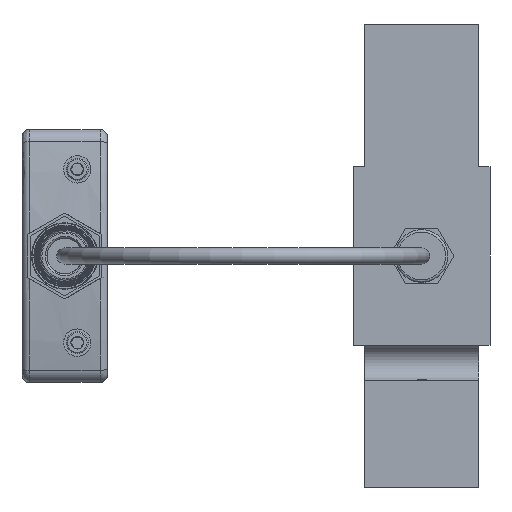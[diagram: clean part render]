
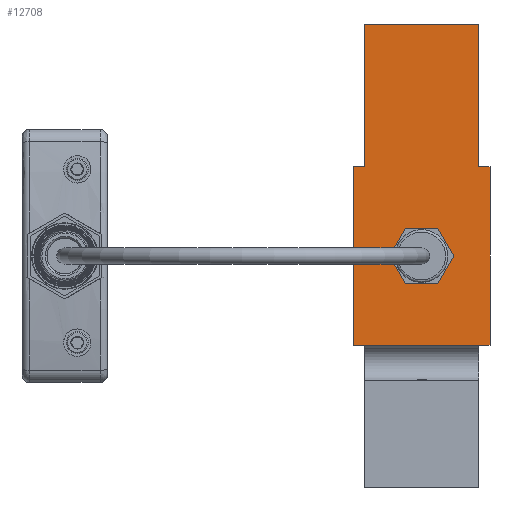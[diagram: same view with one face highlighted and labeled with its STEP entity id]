
A CAD part, left-side view. The second image highlights one B-rep face of the part: STEP entity #12708.
In plain terms, the highlighted free-form (B-spline) face has degree [1, 1] with [2, 2] control points.
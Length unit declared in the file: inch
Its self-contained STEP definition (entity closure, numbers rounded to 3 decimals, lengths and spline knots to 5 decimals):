
#12587=CARTESIAN_POINT('',(43.10371,19.18769,12.698));
#12588=CARTESIAN_POINT('',(43.10371,19.18769,15.398));
#12589=CARTESIAN_POINT('',(43.10371,18.03769,12.698));
#12590=CARTESIAN_POINT('',(43.10371,18.03769,15.398));
#12591=B_SPLINE_SURFACE_WITH_KNOTS('',1,1,((#12587,#12589),(#12588,#12590)),.UNSPECIFIED.,.F.,.F.,.U.,(2,2),(2,2),(0.0,2.7),(0.0,1.15),.UNSPECIFIED.);
#12592=CARTESIAN_POINT('',(43.10371,19.18769,12.698));
#12593=VERTEX_POINT('',#12592);
#12594=CARTESIAN_POINT('',(43.10371,18.03769,12.698));
#12595=VERTEX_POINT('',#12594);
#12596=CARTESIAN_POINT('',(43.10371,19.18769,12.698));
#12597=DIRECTION('',(0.0,-1.0,0.0));
#12598=VECTOR('',#12597,1.15);
#12599=LINE('',#12596,#12598);
#12600=EDGE_CURVE('',#12593,#12595,#12599,.T.);
#12601=ORIENTED_EDGE('',*,*,#12600,.T.);
#12602=CARTESIAN_POINT('',(43.10371,18.03769,14.198));
#12603=VERTEX_POINT('',#12602);
#12604=CARTESIAN_POINT('',(43.10371,18.03769,12.698));
#12605=DIRECTION('',(0.0,0.0,1.0));
#12606=VECTOR('',#12605,1.5);
#12607=LINE('',#12604,#12606);
#12608=EDGE_CURVE('',#12595,#12603,#12607,.T.);
#12609=ORIENTED_EDGE('',*,*,#12608,.T.);
#12610=CARTESIAN_POINT('',(43.10371,18.13269,14.198));
#12611=VERTEX_POINT('',#12610);
#12612=CARTESIAN_POINT('',(43.10371,18.03769,14.198));
#12613=DIRECTION('',(0.0,1.0,0.0));
#12614=VECTOR('',#12613,0.095);
#12615=LINE('',#12612,#12614);
#12616=EDGE_CURVE('',#12603,#12611,#12615,.T.);
#12617=ORIENTED_EDGE('',*,*,#12616,.T.);
#12618=CARTESIAN_POINT('',(43.10371,18.13269,15.398));
#12619=VERTEX_POINT('',#12618);
#12620=CARTESIAN_POINT('',(43.10371,18.13269,15.398));
#12621=DIRECTION('',(0.0,0.0,-1.0));
#12622=VECTOR('',#12621,1.2);
#12623=LINE('',#12620,#12622);
#12624=EDGE_CURVE('',#12619,#12611,#12623,.T.);
#12625=ORIENTED_EDGE('',*,*,#12624,.F.);
#12626=CARTESIAN_POINT('',(43.10371,19.09269,15.398));
#12627=VERTEX_POINT('',#12626);
#12628=CARTESIAN_POINT('',(43.10371,19.09269,15.398));
#12629=DIRECTION('',(0.0,-1.0,0.0));
#12630=VECTOR('',#12629,0.96);
#12631=LINE('',#12628,#12630);
#12632=EDGE_CURVE('',#12627,#12619,#12631,.T.);
#12633=ORIENTED_EDGE('',*,*,#12632,.F.);
#12634=CARTESIAN_POINT('',(43.10371,19.09269,14.198));
#12635=VERTEX_POINT('',#12634);
#12636=CARTESIAN_POINT('',(43.10371,19.09269,15.398));
#12637=DIRECTION('',(0.0,0.0,-1.0));
#12638=VECTOR('',#12637,1.2);
#12639=LINE('',#12636,#12638);
#12640=EDGE_CURVE('',#12627,#12635,#12639,.T.);
#12641=ORIENTED_EDGE('',*,*,#12640,.T.);
#12642=CARTESIAN_POINT('',(43.10371,19.18769,14.198));
#12643=VERTEX_POINT('',#12642);
#12644=CARTESIAN_POINT('',(43.10371,19.09269,14.198));
#12645=DIRECTION('',(0.0,1.0,0.0));
#12646=VECTOR('',#12645,0.095);
#12647=LINE('',#12644,#12646);
#12648=EDGE_CURVE('',#12635,#12643,#12647,.T.);
#12649=ORIENTED_EDGE('',*,*,#12648,.T.);
#12650=CARTESIAN_POINT('',(43.10371,19.18769,12.698));
#12651=DIRECTION('',(0.0,0.0,1.0));
#12652=VECTOR('',#12651,1.5);
#12653=LINE('',#12650,#12652);
#12654=EDGE_CURVE('',#12593,#12643,#12653,.T.);
#12655=ORIENTED_EDGE('',*,*,#12654,.F.);
#12656=EDGE_LOOP('',(#12601,#12609,#12617,#12625,#12633,#12641,#12649,#12655));
#12657=FACE_OUTER_BOUND('',#12656,.T.);
#12658=CARTESIAN_POINT('',(43.10371,18.74765,13.21425));
#12659=VERTEX_POINT('',#12658);
#12660=CARTESIAN_POINT('',(43.10371,18.8826,13.448));
#12661=VERTEX_POINT('',#12660);
#12662=CARTESIAN_POINT('',(43.10371,18.74765,13.21425));
#12663=DIRECTION('',(0.0,0.5,0.866));
#12664=VECTOR('',#12663,0.26991);
#12665=LINE('',#12662,#12664);
#12666=EDGE_CURVE('',#12659,#12661,#12665,.T.);
#12667=ORIENTED_EDGE('',*,*,#12666,.T.);
#12668=CARTESIAN_POINT('',(43.10371,18.74765,13.68175));
#12669=VERTEX_POINT('',#12668);
#12670=CARTESIAN_POINT('',(43.10371,18.8826,13.448));
#12671=DIRECTION('',(0.0,-0.5,0.866));
#12672=VECTOR('',#12671,0.26991);
#12673=LINE('',#12670,#12672);
#12674=EDGE_CURVE('',#12661,#12669,#12673,.T.);
#12675=ORIENTED_EDGE('',*,*,#12674,.T.);
#12676=CARTESIAN_POINT('',(43.10371,18.47773,13.68175));
#12677=VERTEX_POINT('',#12676);
#12678=CARTESIAN_POINT('',(43.10371,18.74765,13.68175));
#12679=DIRECTION('',(0.0,-1.0,0.0));
#12680=VECTOR('',#12679,0.26991);
#12681=LINE('',#12678,#12680);
#12682=EDGE_CURVE('',#12669,#12677,#12681,.T.);
#12683=ORIENTED_EDGE('',*,*,#12682,.T.);
#12684=CARTESIAN_POINT('',(43.10371,18.34278,13.448));
#12685=VERTEX_POINT('',#12684);
#12686=CARTESIAN_POINT('',(43.10371,18.47773,13.68175));
#12687=DIRECTION('',(0.0,-0.5,-0.866));
#12688=VECTOR('',#12687,0.26991);
#12689=LINE('',#12686,#12688);
#12690=EDGE_CURVE('',#12677,#12685,#12689,.T.);
#12691=ORIENTED_EDGE('',*,*,#12690,.T.);
#12692=CARTESIAN_POINT('',(43.10371,18.47773,13.21425));
#12693=VERTEX_POINT('',#12692);
#12694=CARTESIAN_POINT('',(43.10371,18.34278,13.448));
#12695=DIRECTION('',(0.0,0.5,-0.866));
#12696=VECTOR('',#12695,0.26991);
#12697=LINE('',#12694,#12696);
#12698=EDGE_CURVE('',#12685,#12693,#12697,.T.);
#12699=ORIENTED_EDGE('',*,*,#12698,.T.);
#12700=CARTESIAN_POINT('',(43.10371,18.47773,13.21425));
#12701=DIRECTION('',(0.0,1.0,0.0));
#12702=VECTOR('',#12701,0.26991);
#12703=LINE('',#12700,#12702);
#12704=EDGE_CURVE('',#12693,#12659,#12703,.T.);
#12705=ORIENTED_EDGE('',*,*,#12704,.T.);
#12706=EDGE_LOOP('',(#12667,#12675,#12683,#12691,#12699,#12705));
#12707=FACE_BOUND('',#12706,.T.);
#12708=ADVANCED_FACE('',(#12657,#12707),#12591,.F.);
